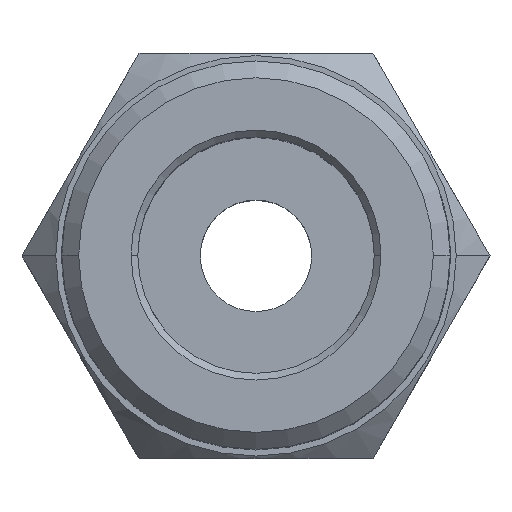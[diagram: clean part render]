
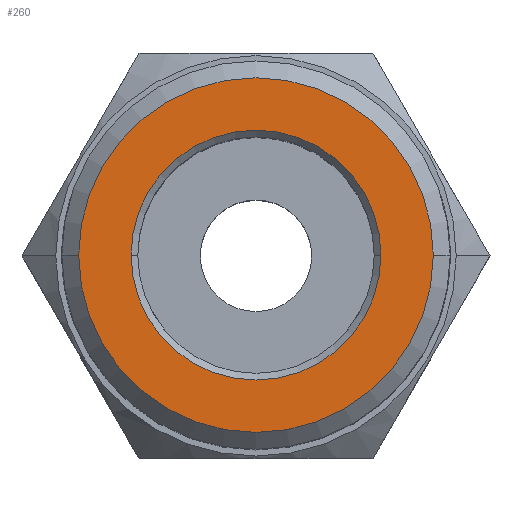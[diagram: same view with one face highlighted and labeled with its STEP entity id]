
A CAD part, top view. The second image highlights one B-rep face of the part: STEP entity #260.
In plain terms, the highlighted planar face has unit normal (0, 0, 1).
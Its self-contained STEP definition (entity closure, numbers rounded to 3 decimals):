
#3 = DIRECTION ( 'NONE',  ( 1., 0., 0. ) ) ;
#36 = CARTESIAN_POINT ( 'NONE',  ( 5.25, 0., 18. ) ) ;
#45 = DIRECTION ( 'NONE',  ( 0., 0., 1. ) ) ;
#73 = CARTESIAN_POINT ( 'NONE',  ( 0., 0., 18. ) ) ;
#109 = FACE_OUTER_BOUND ( 'NONE', #585, .T. ) ;
#114 = PLANE ( 'NONE',  #288 ) ;
#130 = CARTESIAN_POINT ( 'NONE',  ( 0., 0., 18. ) ) ;
#168 = DIRECTION ( 'NONE',  ( 0., 0., -1. ) ) ;
#195 = CARTESIAN_POINT ( 'NONE',  ( 0., 0., 18. ) ) ;
#255 = VERTEX_POINT ( 'NONE', #281 ) ;
#260 = ADVANCED_FACE ( 'NONE', ( #741, #109 ), #114, .T. ) ;
#281 = CARTESIAN_POINT ( 'NONE',  ( -3.7, 0., 18. ) ) ;
#282 = EDGE_CURVE ( 'NONE', #379, #255, #1136, .T. ) ;
#284 = DIRECTION ( 'NONE',  ( 0., 0., 1. ) ) ;
#288 = AXIS2_PLACEMENT_3D ( 'NONE', #195, #959, #1050 ) ;
#312 = CARTESIAN_POINT ( 'NONE',  ( 0., 0., 18. ) ) ;
#379 = VERTEX_POINT ( 'NONE', #896 ) ;
#383 = CARTESIAN_POINT ( 'NONE',  ( 0., 0., 18. ) ) ;
#410 = AXIS2_PLACEMENT_3D ( 'NONE', #130, #45, #1156 ) ;
#412 = EDGE_CURVE ( 'NONE', #255, #379, #537, .T. ) ;
#481 = ORIENTED_EDGE ( 'NONE', *, *, #412, .T. ) ;
#487 = CIRCLE ( 'NONE', #410, 5.25 ) ;
#494 = DIRECTION ( 'NONE',  ( 1., 0., 0. ) ) ;
#507 = AXIS2_PLACEMENT_3D ( 'NONE', #312, #1078, #873 ) ;
#537 = CIRCLE ( 'NONE', #507, 3.7 ) ;
#549 = ORIENTED_EDGE ( 'NONE', *, *, #965, .T. ) ;
#566 = EDGE_CURVE ( 'NONE', #893, #1150, #487, .T. ) ;
#585 = EDGE_LOOP ( 'NONE', ( #549, #1123 ) ) ;
#688 = AXIS2_PLACEMENT_3D ( 'NONE', #383, #284, #494 ) ;
#741 = FACE_BOUND ( 'NONE', #1027, .T. ) ;
#873 = DIRECTION ( 'NONE',  ( 1., 0., 0. ) ) ;
#893 = VERTEX_POINT ( 'NONE', #36 ) ;
#896 = CARTESIAN_POINT ( 'NONE',  ( 3.7, 0., 18. ) ) ;
#940 = AXIS2_PLACEMENT_3D ( 'NONE', #73, #168, #3 ) ;
#953 = ORIENTED_EDGE ( 'NONE', *, *, #282, .T. ) ;
#959 = DIRECTION ( 'NONE',  ( 0., 0., 1. ) ) ;
#965 = EDGE_CURVE ( 'NONE', #1150, #893, #1008, .T. ) ;
#1008 = CIRCLE ( 'NONE', #688, 5.25 ) ;
#1027 = EDGE_LOOP ( 'NONE', ( #953, #481 ) ) ;
#1050 = DIRECTION ( 'NONE',  ( 1., 0., 0. ) ) ;
#1078 = DIRECTION ( 'NONE',  ( 0., 0., -1. ) ) ;
#1123 = ORIENTED_EDGE ( 'NONE', *, *, #566, .T. ) ;
#1136 = CIRCLE ( 'NONE', #940, 3.7 ) ;
#1150 = VERTEX_POINT ( 'NONE', #1202 ) ;
#1156 = DIRECTION ( 'NONE',  ( 1., 0., 0. ) ) ;
#1202 = CARTESIAN_POINT ( 'NONE',  ( -5.25, 0., 18. ) ) ;
